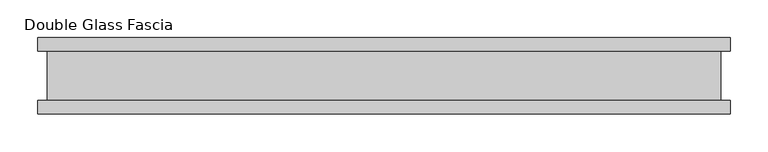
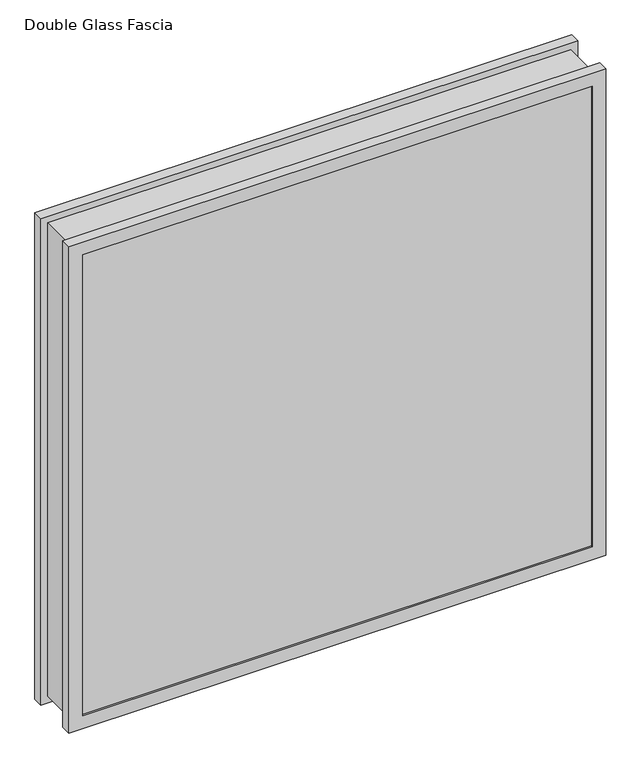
"""IFC4 building model written with IfcOpenShell, lengths in millimetres: proxy geometry, Glass_Fascia-Teknion-FHSG2-Double_Square_Corner-R2022 : Double Glass Fascia."""

import ifcopenshell
import ifcopenshell.guid

model = None  # the IFC model being written
_history = None  # IfcOwnerHistory: only IFC2X3 demands one
_inside = {}  # id of a spatial element -> (the spatial element, [elements in it])
_under = {}  # id of a project, library or spatial element -> (it, [spatial elements below it])
_declared = {}  # id of a project -> (the project, [libraries it declares])
_typed = {}  # id of a type object -> (the type object, [elements of that type])
_made_of = {}  # id of a material, layer set ... -> (it, [elements and type objects made of it])


def new_model(schema):
    """Start an empty IFC model of exactly this schema.

    Asked for "IFC4X3", IfcOpenShell would pick the latest addendum, in which some entities
    have other attributes; the version numbers below select the first issue.
    IFC2X3 requires an IfcOwnerHistory on every rooted entity: one is made here for all.
    """
    global model, _history
    if schema == "IFC4X3":
        model = ifcopenshell.file(schema_version=(4, 3, 0, 0))
    else:
        model = ifcopenshell.file(schema=schema)
    _inside.clear()
    _under.clear()
    _declared.clear()
    _typed.clear()
    _made_of.clear()
    _history = None
    if model.schema == "IFC2X3":
        org = make("IfcOrganization", Name="unknown")
        user = make(
            "IfcPersonAndOrganization",
            ThePerson=make("IfcPerson", FamilyName="unknown"),
            TheOrganization=org,
        )
        app = make(
            "IfcApplication",
            ApplicationDeveloper=org,
            Version="unknown",
            ApplicationFullName="unknown",
            ApplicationIdentifier="unknown",
        )
        _history = make(
            "IfcOwnerHistory",
            OwningUser=user,
            OwningApplication=app,
            ChangeAction="ADDED",
            CreationDate=0,
        )
    return model


def make(cls, **values):
    """One entity of the class cls with the attributes given. An attribute that is None is left unset."""
    return model.create_entity(
        cls, **{name: value for name, value in values.items() if value is not None}
    )


def rooted(cls, **values):
    """An entity with a GlobalId (a new one), such as an element, a storey or a relation."""
    return make(cls, GlobalId=ifcopenshell.guid.new(), OwnerHistory=_history, **values)


def si_unit(unit_type, name, prefix=None):
    """IfcSIUnit, for example si_unit("LENGTHUNIT", "METRE", prefix="MILLI")."""
    return make("IfcSIUnit", UnitType=unit_type, Prefix=prefix, Name=name)


def assignment(units):
    """IfcUnitAssignment: the units of a project."""
    return None if units is None else make("IfcUnitAssignment", Units=units)


def point(xyz):
    """IfcCartesianPoint."""
    return None if xyz is None else make("IfcCartesianPoint", Coordinates=xyz)


def direction(xyz):
    """IfcDirection."""
    return None if xyz is None else make("IfcDirection", DirectionRatios=xyz)


def frame(location, z_axis=None, x_axis=None):
    """IfcAxis2Placement3D, a coordinate frame: its origin and axes. An axis left out is left unset."""
    return make(
        "IfcAxis2Placement3D",
        Location=point(location),
        Axis=direction(z_axis),
        RefDirection=direction(x_axis),
    )


def origin():
    """The frame at (0, 0, 0) with its axes left unset."""
    return frame((0.0, 0.0, 0.0))


def place(relative_to, where):
    """IfcLocalPlacement: puts the frame where relative to a parent placement (None: the world)."""
    return make(
        "IfcLocalPlacement", PlacementRelTo=relative_to, RelativePlacement=where
    )


def context(
    kind, dimensions, precision=None, world=None, true_north=None, identifier=None
):
    """IfcGeometricRepresentationContext, for example the 3D "Model" context."""
    return make(
        "IfcGeometricRepresentationContext",
        ContextIdentifier=identifier,
        ContextType=kind,
        CoordinateSpaceDimension=dimensions,
        Precision=precision,
        WorldCoordinateSystem=world,
        TrueNorth=true_north,
    )


def project(units=None, contexts=None):
    """IfcProject with its units and contexts."""
    return rooted(
        "IfcProject",
        Name="project",
        RepresentationContexts=contexts,
        UnitsInContext=assignment(units),
    )


def spatial(cls, under=None, at=None, **own):
    """A site, building, storey or space (cls), placed at a placement, below another one or the project."""
    s = rooted(cls, ObjectPlacement=at, **own)
    if under is not None:
        _under.setdefault(under.id(), (under, []))[1].append(s)
    return s


def polyline(points):
    """IfcPolyline through the points."""
    return make("IfcPolyline", Points=[point(p) for p in points])


def outline(outer, holes=None, kind="AREA"):
    """IfcArbitraryClosedProfileDef: a profile drawn as a closed curve; with holes, ...WithVoids."""
    if holes is None:
        return make("IfcArbitraryClosedProfileDef", ProfileType=kind, OuterCurve=outer)
    return make(
        "IfcArbitraryProfileDefWithVoids",
        ProfileType=kind,
        OuterCurve=outer,
        InnerCurves=holes,
    )


def extrude(swept, where, along, depth):
    """IfcExtrudedAreaSolid: the profile swept, set in the frame where, extruded along a direction by depth."""
    return make(
        "IfcExtrudedAreaSolid",
        SweptArea=swept,
        Position=where,
        ExtrudedDirection=direction(along),
        Depth=depth,
    )


def faces_of(points, faces, orient=None, outer=None):
    """IfcFace entities. A face is a list of loops; a loop is a list of indices into points, from 0.

    orient and outer hold one flag for each loop. By default every Orientation is true, the
    first loop of a face is its IfcFaceOuterBound and the others are IfcFaceBound.
    """
    made = []
    for i, loops in enumerate(faces):
        bounds = []
        for j, loop in enumerate(loops):
            is_outer = j == 0 if outer is None else outer[i][j]
            bounds.append(
                make(
                    "IfcFaceOuterBound" if is_outer else "IfcFaceBound",
                    Bound=make("IfcPolyLoop", Polygon=[points[k] for k in loop]),
                    Orientation=True if orient is None else orient[i][j],
                )
            )
        made.append(make("IfcFace", Bounds=bounds))
    return made


def faceted_brep(points, faces, orient=None, outer=None, voids=None):
    """IfcFacetedBrep: a solid bounded by flat faces; with voids (closed shells), ...WithVoids."""
    shared = [point(p) for p in points]
    hull = make("IfcClosedShell", CfsFaces=faces_of(shared, faces, orient, outer))
    if voids is None:
        return make("IfcFacetedBrep", Outer=hull)
    return make(
        "IfcFacetedBrepWithVoids",
        Outer=hull,
        Voids=[
            make(cls, CfsFaces=faces_of(shared, fs, o, b)) for cls, fs, o, b in voids
        ],
    )


def shape(context_of_items, identifier, shape_type, items):
    """IfcShapeRepresentation: the items that make up one representation, for example the "Body"."""
    return make(
        "IfcShapeRepresentation",
        ContextOfItems=context_of_items,
        RepresentationIdentifier=identifier,
        RepresentationType=shape_type,
        Items=items,
    )


def source(mapping_origin, context_of_items, identifier, shape_type, items):
    """IfcRepresentationMap: a shape defined once, which mapped items show again and again."""
    return make(
        "IfcRepresentationMap",
        MappingOrigin=mapping_origin,
        MappedRepresentation=shape(context_of_items, identifier, shape_type, items),
    )


def transform(
    local_origin,
    x_axis=None,
    y_axis=None,
    z_axis=None,
    scale=None,
    scale2=None,
    scale3=None,
    uniform=True,
):
    """IfcCartesianTransformationOperator3D, or its non-uniform kind. x_axis, y_axis, z_axis: its Axis1, 2, 3."""
    if uniform:
        return make(
            "IfcCartesianTransformationOperator3D",
            Axis1=direction(x_axis),
            Axis2=direction(y_axis),
            LocalOrigin=point(local_origin),
            Scale=scale,
            Axis3=direction(z_axis),
        )
    return make(
        "IfcCartesianTransformationOperator3DnonUniform",
        Axis1=direction(x_axis),
        Axis2=direction(y_axis),
        LocalOrigin=point(local_origin),
        Scale=scale,
        Axis3=direction(z_axis),
        Scale2=scale2,
        Scale3=scale3,
    )


def mapped(mapping_source, mapping_target):
    """IfcMappedItem: shows the shape of a source again, moved by a transform."""
    return make(
        "IfcMappedItem", MappingSource=mapping_source, MappingTarget=mapping_target
    )


def made_of(thing, what):
    """Note that an element or type object is made of a material, layer set ...; save() writes the relation."""
    if what is not None:
        _made_of.setdefault(what.id(), (what, []))[1].append(thing)
    return thing


def element(
    cls,
    number,
    at=None,
    inside=None,
    cuts=None,
    type_object=None,
    material=None,
    context=None,
    identifier="Body",
    shape_type=None,
    held_by="IfcProductDefinitionShape",
    body=None,
    shapes=None,
    **own,
):
    """One element of the class cls, such as IfcWall. Its Tag is "e" and its number.

    at: its placement. inside: the storey or other place that contains it. cuts: it is an
    opening in that element (IfcRelVoidsElement). A single representation is given by context,
    identifier, shape_type and body (its items); several are given by shapes. held_by: the class
    of the entity that holds the representations. save() writes the other relations.
    """
    e = rooted(cls, Tag="e%d" % number, ObjectPlacement=at, **own)
    if body is not None:
        shapes = [shape(context, identifier, shape_type, body)]
    if shapes is not None:
        e.Representation = make(held_by, Representations=shapes)
    if inside is not None:
        _inside.setdefault(inside.id(), (inside, []))[1].append(e)
    if cuts is not None:
        rooted(
            "IfcRelVoidsElement", RelatingBuildingElement=cuts, RelatedOpeningElement=e
        )
    if type_object is not None:
        _typed.setdefault(type_object.id(), (type_object, []))[1].append(e)
    return made_of(e, material)


def aggregate(whole, parts):
    """IfcRelAggregates: a whole, such as a stair, and the parts it consists of."""
    return rooted("IfcRelAggregates", RelatingObject=whole, RelatedObjects=parts)


def save(model, path):
    """Write the relations noted so far, then the file.

    IfcRelAggregates (storeys below a building ...), IfcRelContainedInSpatialStructure (elements
    in a storey), IfcRelDefinesByType, IfcRelAssociatesMaterial and IfcRelDeclares: one each for
    every whole, place, type object, material and project.
    """
    for whole, parts in _under.values():
        aggregate(whole, parts)
    for where, things in _inside.values():
        rooted(
            "IfcRelContainedInSpatialStructure",
            RelatedElements=things,
            RelatingStructure=where,
        )
    for kind, things in _typed.values():
        rooted("IfcRelDefinesByType", RelatedObjects=things, RelatingType=kind)
    for what, things in _made_of.values():
        rooted("IfcRelAssociatesMaterial", RelatedObjects=things, RelatingMaterial=what)
    for by, libraries in _declared.values():
        rooted("IfcRelDeclares", RelatingContext=by, RelatedDefinitions=libraries)
    model.write(path)


def double_glass_fascia_579c8d8f(model_context):
    return source(origin(), model_context, "Body", "SolidModel", [
        faceted_brep([(443.4640848, -32.4352299, 863.600885), (443.4640848, -32.4352299, 15.0359151), (443.4640848, 32.4352299, 15.0359151), (443.4640848, 32.4352299, 863.600885), (-443.4640848, -32.4352299, 15.0359151), (-443.4640848, 32.4352299, 15.0359151), (-443.4640848, -32.4352299, 863.600885), (-443.4640848, 32.4352299, 863.600885), (432.2871999, 38.8962152, 852.4240001), (432.2871999, 38.8962152, 26.2128), (432.2871999, -38.8962152, 26.2128), (432.2871999, -38.8962152, 852.4240001), (449.0218392, 47.1322551, 869.1586393), (449.0218392, 47.1322551, 9.4781608), (449.0218392, 38.8962152, 9.4781608), (449.0218392, 38.8962152, 869.1586393), (432.1093999, 50.0558594, 852.2462001), (432.1093999, 50.0558594, 26.3906), (432.1093999, 47.1322551, 26.3906), (432.1093999, 47.1322551, 852.2462001), (455.3249999, 32.4352299, 875.4618001), (455.3249999, 32.4352299, 3.175), (455.3249999, 50.0558594, 3.175), (455.3249999, 50.0558594, 875.4618001), (-432.2871999, 38.8962152, 26.2128), (-432.2871999, -38.8962152, 26.2128), (-449.0218392, 47.1322551, 9.4781608), (-449.0218392, 38.8962152, 9.4781608), (-432.1093999, 50.0558594, 26.3906), (-432.1093999, 47.1322551, 26.3906), (-455.3249999, 32.4352299, 3.175), (-455.3249999, 50.0558594, 3.175), (-432.2871999, 38.8962152, 852.4240001), (-432.2871999, -38.8962152, 852.4240001), (-449.0218392, 47.1322551, 869.1586393), (-449.0218392, 38.8962152, 869.1586393), (-432.1093999, 50.0558594, 852.2462001), (-432.1093999, 47.1322551, 852.2462001), (-455.3249999, 32.4352299, 875.4618001), (-455.3249999, 50.0558594, 875.4618001), (455.3249999, -50.0558594, 875.4618001), (455.3249999, -50.0558594, 3.175), (455.3249999, -32.4352299, 3.175), (455.3249999, -32.4352299, 875.4618001), (432.2871999, -47.1322551, 852.4240001), (432.2871999, -47.1322551, 26.2128), (432.2871999, -50.0558594, 26.2128), (432.2871999, -50.0558594, 852.4240001), (449.0218392, -38.8962152, 869.1586393), (449.0218392, -38.8962152, 9.4781608), (449.0218392, -47.1322551, 9.4781608), (449.0218392, -47.1322551, 869.1586393), (-455.3249999, -50.0558594, 3.175), (-455.3249999, -32.4352299, 3.175), (-432.2871999, -47.1322551, 26.2128), (-432.2871999, -50.0558594, 26.2128), (-449.0218392, -38.8962152, 9.4781608), (-449.0218392, -47.1322551, 9.4781608), (-455.3249999, -50.0558594, 875.4618001), (-455.3249999, -32.4352299, 875.4618001), (-432.2871999, -47.1322551, 852.4240001), (-432.2871999, -50.0558594, 852.4240001), (-449.0218392, -38.8962152, 869.1586393), (-449.0218392, -47.1322551, 869.1586393)], [[[0, 1, 2, 3]], [[1, 4, 5, 2]], [[4, 6, 7, 5]], [[6, 0, 3, 7]], [[8, 9, 10, 11]], [[12, 13, 14, 15]], [[16, 17, 18, 19]], [[20, 21, 22, 23]], [[9, 24, 25, 10]], [[13, 26, 27, 14]], [[17, 28, 29, 18]], [[21, 30, 31, 22]], [[24, 32, 33, 25]], [[26, 34, 35, 27]], [[28, 36, 37, 29]], [[30, 38, 39, 31]], [[32, 8, 11, 33]], [[15, 14, 27, 35], [9, 8, 32, 24]], [[34, 12, 15, 35]], [[13, 12, 34, 26], [19, 18, 29, 37]], [[36, 16, 19, 37]], [[23, 22, 31, 39], [17, 16, 36, 28]], [[38, 20, 23, 39]], [[21, 20, 38, 30], [3, 2, 5, 7]], [[40, 41, 42, 43]], [[44, 45, 46, 47]], [[48, 49, 50, 51]], [[41, 52, 53, 42]], [[45, 54, 55, 46]], [[49, 56, 57, 50]], [[52, 58, 59, 53]], [[54, 60, 61, 55]], [[56, 62, 63, 57]], [[43, 42, 53, 59], [1, 0, 6, 4]], [[58, 40, 43, 59]], [[41, 40, 58, 52], [47, 46, 55, 61]], [[60, 44, 47, 61]], [[51, 50, 57, 63], [45, 44, 60, 54]], [[62, 48, 51, 63]], [[49, 48, 62, 56], [11, 10, 25, 33]]]),
        extrude(outline(polyline([(444.5, 40.9277344), (-444.5, 40.9277344), (-444.5, 46.8808594), (444.5, 46.8808594), (444.5, 40.9277344)])), frame((0.0, 0.0, 5.3275263), z_axis=(0.0, 0.0, 1.0), x_axis=(1.0, 0.0, 0.0)), (0.0, 0.0, 1.0), 867.4877281),
        extrude(outline(polyline([(444.5, -41.1791301), (444.5, -47.1322551), (-444.5, -47.1322551), (-444.5, -41.1791301), (444.5, -41.1791301)])), frame((0.0, 0.0, 5.3275263), z_axis=(0.0, 0.0, 1.0), x_axis=(1.0, 0.0, 0.0)), (0.0, 0.0, 1.0), 867.4877281),
    ])


if __name__ == "__main__":
    model = new_model("IFC4")
    model_context = context("Model", 3, world=origin())
    ifc_project = project(units=[si_unit("LENGTHUNIT", "METRE", prefix="MILLI")], contexts=[model_context])
    site = spatial("IfcSite", under=ifc_project)
    building = spatial("IfcBuilding", under=site)
    placement = place(None, origin())
    double_glass_fascia_shape = double_glass_fascia_579c8d8f(model_context)
    element("IfcBuildingElementProxy", 1, Name="Glass_Fascia-Teknion-FHSG2-Double_Square_Corner-R2022 : Double Glass Fascia", ObjectType="Glass_Fascia-Teknion-FHSG2-Double_Square_Corner-R2022 : Double Glass Fascia", at=placement, inside=building, context=model_context, shape_type="MappedRepresentation", body=[
        mapped(double_glass_fascia_shape, transform((0.0, 0.0, 0.0), x_axis=(1.0, 0.0, 0.0), y_axis=(0.0, 1.0, 0.0), z_axis=(0.0, 0.0, 1.0))),
    ])
    save(model, "model.ifc")
